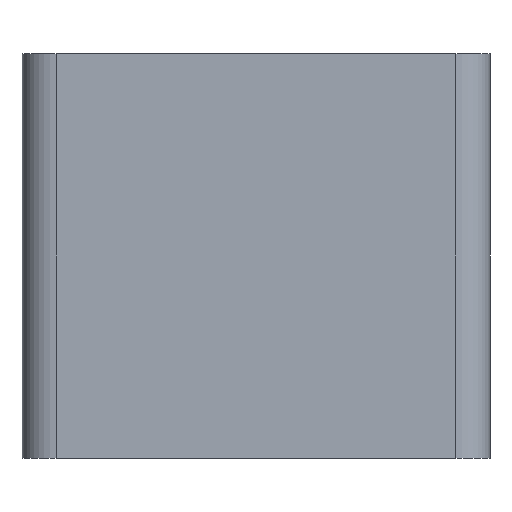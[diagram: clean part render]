
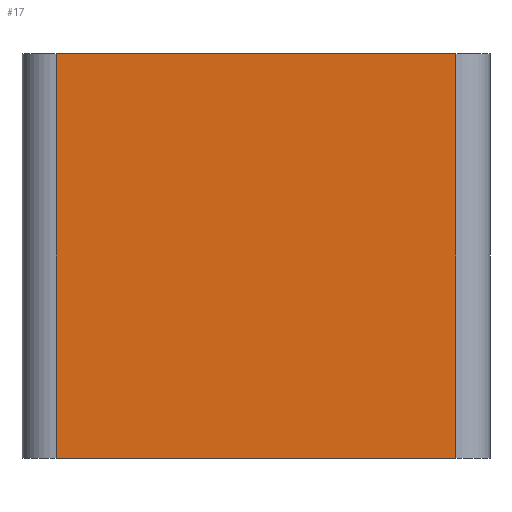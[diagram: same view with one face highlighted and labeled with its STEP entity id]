
A CAD part, left-side view. The second image highlights one B-rep face of the part: STEP entity #17.
In plain terms, the highlighted planar face has unit normal (-1, 0, 0).
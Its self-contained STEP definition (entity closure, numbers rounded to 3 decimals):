
#17 = ADVANCED_FACE('',(#18),#32,.F.);
#18 = FACE_BOUND('',#19,.F.);
#19 = EDGE_LOOP('',(#20,#55,#83,#111));
#20 = ORIENTED_EDGE('',*,*,#21,.F.);
#21 = EDGE_CURVE('',#22,#24,#26,.T.);
#22 = VERTEX_POINT('',#23);
#23 = CARTESIAN_POINT('',(-281.652,-47.,267.7));
#24 = VERTEX_POINT('',#25);
#25 = CARTESIAN_POINT('',(-281.652,47.,267.7));
#26 = SURFACE_CURVE('',#27,(#31,#43),.PCURVE_S1.);
#27 = LINE('',#28,#29);
#28 = CARTESIAN_POINT('',(-281.652,-55.,267.7));
#29 = VECTOR('',#30,1.);
#30 = DIRECTION('',(-0.,1.,0.));
#31 = PCURVE('',#32,#37);
#32 = PLANE('',#33);
#33 = AXIS2_PLACEMENT_3D('',#34,#35,#36);
#34 = CARTESIAN_POINT('',(-281.652,-55.,172.7));
#35 = DIRECTION('',(1.,0.,-0.));
#36 = DIRECTION('',(0.,0.,1.));
#37 = DEFINITIONAL_REPRESENTATION('',(#38),#42);
#38 = LINE('',#39,#40);
#39 = CARTESIAN_POINT('',(95.,0.));
#40 = VECTOR('',#41,1.);
#41 = DIRECTION('',(0.,-1.));
#42 = ( GEOMETRIC_REPRESENTATION_CONTEXT(2) 
PARAMETRIC_REPRESENTATION_CONTEXT() REPRESENTATION_CONTEXT('2D SPACE',''
  ) );
#43 = PCURVE('',#44,#49);
#44 = PLANE('',#45);
#45 = AXIS2_PLACEMENT_3D('',#46,#47,#48);
#46 = CARTESIAN_POINT('',(-281.652,-55.,267.7));
#47 = DIRECTION('',(0.,0.,1.));
#48 = DIRECTION('',(1.,0.,-0.));
#49 = DEFINITIONAL_REPRESENTATION('',(#50),#54);
#50 = LINE('',#51,#52);
#51 = CARTESIAN_POINT('',(0.,0.));
#52 = VECTOR('',#53,1.);
#53 = DIRECTION('',(0.,1.));
#54 = ( GEOMETRIC_REPRESENTATION_CONTEXT(2) 
PARAMETRIC_REPRESENTATION_CONTEXT() REPRESENTATION_CONTEXT('2D SPACE',''
  ) );
#55 = ORIENTED_EDGE('',*,*,#56,.F.);
#56 = EDGE_CURVE('',#57,#22,#59,.T.);
#57 = VERTEX_POINT('',#58);
#58 = CARTESIAN_POINT('',(-281.652,-47.,172.7));
#59 = SURFACE_CURVE('',#60,(#64,#71),.PCURVE_S1.);
#60 = LINE('',#61,#62);
#61 = CARTESIAN_POINT('',(-281.652,-47.,172.7));
#62 = VECTOR('',#63,1.);
#63 = DIRECTION('',(0.,0.,1.));
#64 = PCURVE('',#32,#65);
#65 = DEFINITIONAL_REPRESENTATION('',(#66),#70);
#66 = LINE('',#67,#68);
#67 = CARTESIAN_POINT('',(0.,-8.));
#68 = VECTOR('',#69,1.);
#69 = DIRECTION('',(1.,0.));
#70 = ( GEOMETRIC_REPRESENTATION_CONTEXT(2) 
PARAMETRIC_REPRESENTATION_CONTEXT() REPRESENTATION_CONTEXT('2D SPACE',''
  ) );
#71 = PCURVE('',#72,#77);
#72 = CYLINDRICAL_SURFACE('',#73,8.);
#73 = AXIS2_PLACEMENT_3D('',#74,#75,#76);
#74 = CARTESIAN_POINT('',(-273.652,-47.,172.7));
#75 = DIRECTION('',(0.,0.,1.));
#76 = DIRECTION('',(-1.,-0.,0.));
#77 = DEFINITIONAL_REPRESENTATION('',(#78),#82);
#78 = LINE('',#79,#80);
#79 = CARTESIAN_POINT('',(0.,0.));
#80 = VECTOR('',#81,1.);
#81 = DIRECTION('',(0.,1.));
#82 = ( GEOMETRIC_REPRESENTATION_CONTEXT(2) 
PARAMETRIC_REPRESENTATION_CONTEXT() REPRESENTATION_CONTEXT('2D SPACE',''
  ) );
#83 = ORIENTED_EDGE('',*,*,#84,.T.);
#84 = EDGE_CURVE('',#57,#85,#87,.T.);
#85 = VERTEX_POINT('',#86);
#86 = CARTESIAN_POINT('',(-281.652,47.,172.7));
#87 = SURFACE_CURVE('',#88,(#92,#99),.PCURVE_S1.);
#88 = LINE('',#89,#90);
#89 = CARTESIAN_POINT('',(-281.652,-55.,172.7));
#90 = VECTOR('',#91,1.);
#91 = DIRECTION('',(-0.,1.,0.));
#92 = PCURVE('',#32,#93);
#93 = DEFINITIONAL_REPRESENTATION('',(#94),#98);
#94 = LINE('',#95,#96);
#95 = CARTESIAN_POINT('',(0.,0.));
#96 = VECTOR('',#97,1.);
#97 = DIRECTION('',(0.,-1.));
#98 = ( GEOMETRIC_REPRESENTATION_CONTEXT(2) 
PARAMETRIC_REPRESENTATION_CONTEXT() REPRESENTATION_CONTEXT('2D SPACE',''
  ) );
#99 = PCURVE('',#100,#105);
#100 = PLANE('',#101);
#101 = AXIS2_PLACEMENT_3D('',#102,#103,#104);
#102 = CARTESIAN_POINT('',(-281.652,-55.,172.7));
#103 = DIRECTION('',(0.,0.,1.));
#104 = DIRECTION('',(1.,0.,-0.));
#105 = DEFINITIONAL_REPRESENTATION('',(#106),#110);
#106 = LINE('',#107,#108);
#107 = CARTESIAN_POINT('',(0.,0.));
#108 = VECTOR('',#109,1.);
#109 = DIRECTION('',(0.,1.));
#110 = ( GEOMETRIC_REPRESENTATION_CONTEXT(2) 
PARAMETRIC_REPRESENTATION_CONTEXT() REPRESENTATION_CONTEXT('2D SPACE',''
  ) );
#111 = ORIENTED_EDGE('',*,*,#112,.T.);
#112 = EDGE_CURVE('',#85,#24,#113,.T.);
#113 = SURFACE_CURVE('',#114,(#118,#125),.PCURVE_S1.);
#114 = LINE('',#115,#116);
#115 = CARTESIAN_POINT('',(-281.652,47.,172.7));
#116 = VECTOR('',#117,1.);
#117 = DIRECTION('',(0.,0.,1.));
#118 = PCURVE('',#32,#119);
#119 = DEFINITIONAL_REPRESENTATION('',(#120),#124);
#120 = LINE('',#121,#122);
#121 = CARTESIAN_POINT('',(0.,-102.));
#122 = VECTOR('',#123,1.);
#123 = DIRECTION('',(1.,0.));
#124 = ( GEOMETRIC_REPRESENTATION_CONTEXT(2) 
PARAMETRIC_REPRESENTATION_CONTEXT() REPRESENTATION_CONTEXT('2D SPACE',''
  ) );
#125 = PCURVE('',#126,#131);
#126 = CYLINDRICAL_SURFACE('',#127,8.);
#127 = AXIS2_PLACEMENT_3D('',#128,#129,#130);
#128 = CARTESIAN_POINT('',(-273.652,47.,172.7));
#129 = DIRECTION('',(0.,0.,1.));
#130 = DIRECTION('',(-1.,-0.,0.));
#131 = DEFINITIONAL_REPRESENTATION('',(#132),#136);
#132 = LINE('',#133,#134);
#133 = CARTESIAN_POINT('',(-0.,0.));
#134 = VECTOR('',#135,1.);
#135 = DIRECTION('',(-0.,1.));
#136 = ( GEOMETRIC_REPRESENTATION_CONTEXT(2) 
PARAMETRIC_REPRESENTATION_CONTEXT() REPRESENTATION_CONTEXT('2D SPACE',''
  ) );
